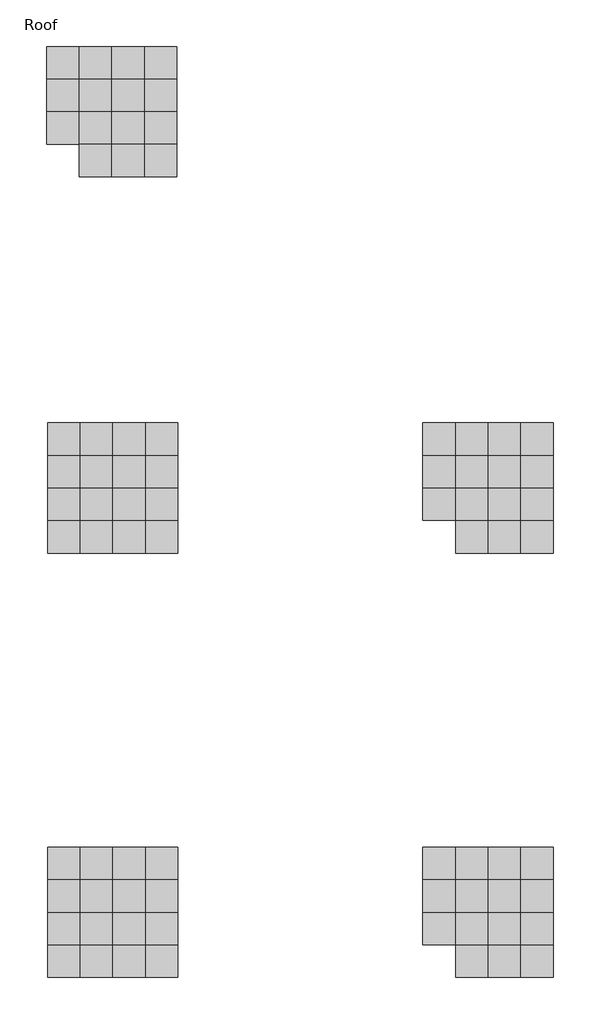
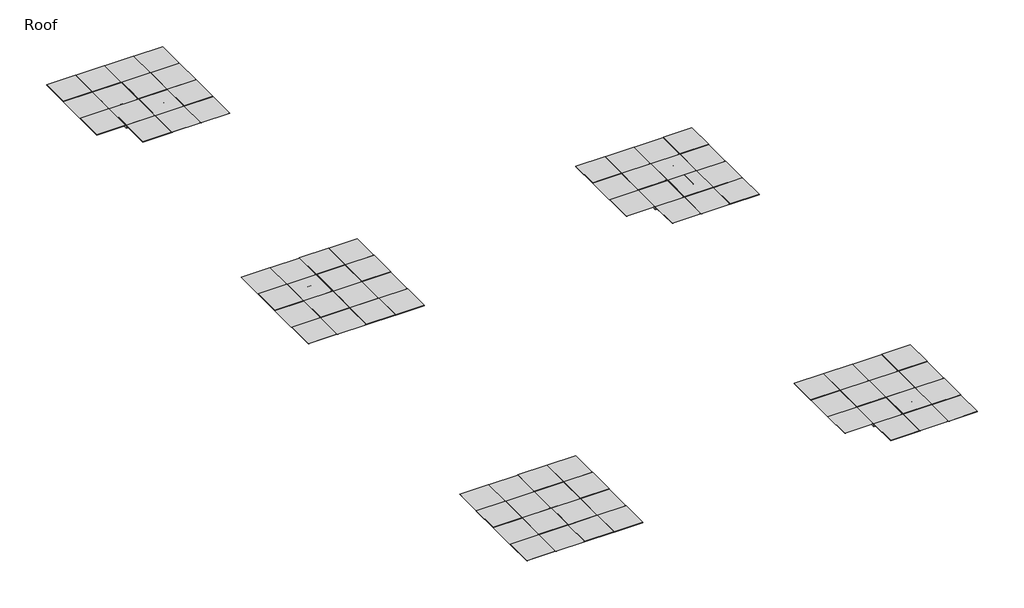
# One storey: 77 plates.
"""IFC4 building model written with IfcOpenShell, lengths in millimetres."""

from ifc_helpers import new_model, si_unit, origin, place, context, project, spatial, transform, mapped, element, save
from components import plate_104ba011, plate_ab7ddb5a, plate_bf94edcd, plate_3a2f0570, plate_562299b5

model = new_model("IFC4")

# Units and contexts
model_context = context("Model", 3, world=origin())
ifc_project = project(units=[si_unit("LENGTHUNIT", "METRE", prefix="MILLI")], contexts=[model_context])

# Site, building, storey
site = spatial("IfcSite", under=ifc_project)
building = spatial("IfcBuilding", under=site)
storey = spatial("IfcBuildingStorey", under=building, Name="Roof", Elevation=6096.0)

# Plates
placement = place(None, origin())
plate_shape = plate_104ba011(model_context)
element("IfcPlate", 1, ObjectType="Construction_Ceilings_Qwel-Tiles_Terra-Molded-Acoustic-Ceiling-Tiles : Terra (Light Grey Heather)", at=placement, inside=storey, context=model_context, shape_type="MappedRepresentation", body=[
    mapped(plate_shape, transform((-10036.4328018, 10145.5784964, 6096.0), x_axis=(1.0, 0.0, 0.0), y_axis=(0.0, 0.0, -1.0), z_axis=(0.0, 1.0, 0.0))),
])
plate_2_shape = plate_ab7ddb5a(model_context)
element("IfcPlate", 2, ObjectType="Construction_Ceilings_Qwel-Tiles_Terra-Molded-Acoustic-Ceiling-Tiles : Terra (Light Grey Heather)", at=placement, inside=storey, context=model_context, shape_type="MappedRepresentation", body=[
    mapped(plate_2_shape, transform((-9426.8328018, 10145.5784964, 6096.0), x_axis=(1.0, 0.0, 0.0), y_axis=(0.0, 0.0, -1.0), z_axis=(0.0, 1.0, 0.0))),
])
plate_3_shape = plate_bf94edcd(model_context)
element("IfcPlate", 3, ObjectType="Construction_Ceilings_Qwel-Tiles_Terra-Molded-Acoustic-Ceiling-Tiles : Terra (Light Grey Heather)", at=placement, inside=storey, context=model_context, shape_type="MappedRepresentation", body=[
    mapped(plate_3_shape, transform((-10036.4328018, 10755.1784964, 6096.0), x_axis=(1.0, 0.0, 0.0), y_axis=(0.0, 0.0, -1.0), z_axis=(0.0, 1.0, 0.0))),
])
plate_4_shape = plate_3a2f0570(model_context)
element("IfcPlate", 4, ObjectType="Construction_Ceilings_Qwel-Tiles_Terra-Molded-Acoustic-Ceiling-Tiles : Terra (Light Grey Heather)", at=placement, inside=storey, context=model_context, shape_type="MappedRepresentation", body=[
    mapped(plate_4_shape, transform((-9426.8328018, 10755.1784964, 6096.0), x_axis=(1.0, 0.0, 0.0), y_axis=(0.0, 0.0, -1.0), z_axis=(0.0, 1.0, 0.0))),
])
element("IfcPlate", 5, ObjectType="Construction_Ceilings_Qwel-Tiles_Terra-Molded-Acoustic-Ceiling-Tiles : Terra (Charcoal Heather)", at=placement, inside=storey, context=model_context, shape_type="MappedRepresentation", body=[
    mapped(plate_shape, transform((-3026.0328018, 10145.5784964, 6096.0), x_axis=(1.0, 0.0, 0.0), y_axis=(0.0, 0.0, -1.0), z_axis=(0.0, 1.0, 0.0))),
])
element("IfcPlate", 6, ObjectType="Construction_Ceilings_Qwel-Tiles_Terra-Molded-Acoustic-Ceiling-Tiles : Terra (Charcoal Heather)", at=placement, inside=storey, context=model_context, shape_type="MappedRepresentation", body=[
    mapped(plate_2_shape, transform((-2416.4328018, 10145.5784964, 6096.0), x_axis=(1.0, 0.0, 0.0), y_axis=(0.0, 0.0, -1.0), z_axis=(0.0, 1.0, 0.0))),
])
element("IfcPlate", 7, ObjectType="Construction_Ceilings_Qwel-Tiles_Terra-Molded-Acoustic-Ceiling-Tiles : Terra (Charcoal Heather)", at=placement, inside=storey, context=model_context, shape_type="MappedRepresentation", body=[
    mapped(plate_3_shape, transform((-3026.0328018, 10755.1784964, 6096.0), x_axis=(1.0, 0.0, 0.0), y_axis=(0.0, 0.0, -1.0), z_axis=(0.0, 1.0, 0.0))),
])
element("IfcPlate", 8, ObjectType="Construction_Ceilings_Qwel-Tiles_Terra-Molded-Acoustic-Ceiling-Tiles : Terra (Charcoal Heather)", at=placement, inside=storey, context=model_context, shape_type="MappedRepresentation", body=[
    mapped(plate_4_shape, transform((-2416.4328018, 10755.1784964, 6096.0), x_axis=(1.0, 0.0, 0.0), y_axis=(0.0, 0.0, -1.0), z_axis=(0.0, 1.0, 0.0))),
])
element("IfcPlate", 9, ObjectType="Construction_Ceilings_Qwel-Tiles_Terra-Molded-Acoustic-Ceiling-Tiles : Terra (Sandstone Heather)", at=placement, inside=storey, context=model_context, shape_type="MappedRepresentation", body=[
    mapped(plate_shape, transform((-3026.0328018, 2220.7784964, 6096.0), x_axis=(1.0, 0.0, 0.0), y_axis=(0.0, 0.0, -1.0), z_axis=(0.0, 1.0, 0.0))),
])
element("IfcPlate", 10, ObjectType="Construction_Ceilings_Qwel-Tiles_Terra-Molded-Acoustic-Ceiling-Tiles : Terra (Sandstone Heather)", at=placement, inside=storey, context=model_context, shape_type="MappedRepresentation", body=[
    mapped(plate_2_shape, transform((-2416.4328018, 2220.7784964, 6096.0), x_axis=(1.0, 0.0, 0.0), y_axis=(0.0, 0.0, -1.0), z_axis=(0.0, 1.0, 0.0))),
])
element("IfcPlate", 11, ObjectType="Construction_Ceilings_Qwel-Tiles_Terra-Molded-Acoustic-Ceiling-Tiles : Terra (Sandstone Heather)", at=placement, inside=storey, context=model_context, shape_type="MappedRepresentation", body=[
    mapped(plate_3_shape, transform((-3026.0328018, 2830.3784964, 6096.0), x_axis=(1.0, 0.0, 0.0), y_axis=(0.0, 0.0, -1.0), z_axis=(0.0, 1.0, 0.0))),
])
element("IfcPlate", 12, ObjectType="Construction_Ceilings_Qwel-Tiles_Terra-Molded-Acoustic-Ceiling-Tiles : Terra (Sandstone Heather)", at=placement, inside=storey, context=model_context, shape_type="MappedRepresentation", body=[
    mapped(plate_4_shape, transform((-2416.4328018, 2830.3784964, 6096.0), x_axis=(1.0, 0.0, 0.0), y_axis=(0.0, 0.0, -1.0), z_axis=(0.0, 1.0, 0.0))),
])
plate_5_shape = plate_562299b5(model_context)
element("IfcPlate", 13, ObjectType="Construction_Ceilings_Qwel-Tiles_Flat-Molded-Acoustic-Ceiling-Tiles : Flat Tile (Charcoal Heather)", at=placement, inside=storey, context=model_context, shape_type="MappedRepresentation", body=[
    mapped(plate_5_shape, transform((-3026.0328018, 9535.9784964, 6096.0), x_axis=(1.0, 0.0, 0.0), y_axis=(0.0, 0.0, -1.0), z_axis=(0.0, 1.0, 0.0))),
])
element("IfcPlate", 14, ObjectType="Construction_Ceilings_Qwel-Tiles_Flat-Molded-Acoustic-Ceiling-Tiles : Flat Tile (Charcoal Heather)", at=placement, inside=storey, context=model_context, shape_type="MappedRepresentation", body=[
    mapped(plate_5_shape, transform((-2416.4328018, 9535.9784964, 6096.0), x_axis=(1.0, 0.0, 0.0), y_axis=(0.0, 0.0, -1.0), z_axis=(0.0, 1.0, 0.0))),
])
element("IfcPlate", 15, ObjectType="Construction_Ceilings_Qwel-Tiles_Flat-Molded-Acoustic-Ceiling-Tiles : Flat Tile (Charcoal Heather)", at=placement, inside=storey, context=model_context, shape_type="MappedRepresentation", body=[
    mapped(plate_5_shape, transform((-1806.8328019, 9535.9784964, 6096.0), x_axis=(1.0, 0.0, 0.0), y_axis=(0.0, 0.0, -1.0), z_axis=(0.0, 1.0, 0.0))),
])
element("IfcPlate", 16, ObjectType="Construction_Ceilings_Qwel-Tiles_Flat-Molded-Acoustic-Ceiling-Tiles : Flat Tile (Charcoal Heather)", at=placement, inside=storey, context=model_context, shape_type="MappedRepresentation", body=[
    mapped(plate_5_shape, transform((-3635.6328019, 10145.5784964, 6096.0), x_axis=(1.0, 0.0, 0.0), y_axis=(0.0, 0.0, -1.0), z_axis=(0.0, 1.0, 0.0))),
])
element("IfcPlate", 17, ObjectType="Construction_Ceilings_Qwel-Tiles_Flat-Molded-Acoustic-Ceiling-Tiles : Flat Tile (Charcoal Heather)", at=placement, inside=storey, context=model_context, shape_type="MappedRepresentation", body=[
    mapped(plate_5_shape, transform((-1806.8328019, 10145.5784964, 6096.0), x_axis=(1.0, 0.0, 0.0), y_axis=(0.0, 0.0, -1.0), z_axis=(0.0, 1.0, 0.0))),
])
element("IfcPlate", 18, ObjectType="Construction_Ceilings_Qwel-Tiles_Flat-Molded-Acoustic-Ceiling-Tiles : Flat Tile (Charcoal Heather)", at=placement, inside=storey, context=model_context, shape_type="MappedRepresentation", body=[
    mapped(plate_5_shape, transform((-3635.6328019, 10755.1784964, 6096.0), x_axis=(1.0, 0.0, 0.0), y_axis=(0.0, 0.0, -1.0), z_axis=(0.0, 1.0, 0.0))),
])
element("IfcPlate", 19, ObjectType="Construction_Ceilings_Qwel-Tiles_Flat-Molded-Acoustic-Ceiling-Tiles : Flat Tile (Charcoal Heather)", at=placement, inside=storey, context=model_context, shape_type="MappedRepresentation", body=[
    mapped(plate_5_shape, transform((-1806.8328019, 10755.1784964, 6096.0), x_axis=(1.0, 0.0, 0.0), y_axis=(0.0, 0.0, -1.0), z_axis=(0.0, 1.0, 0.0))),
])
element("IfcPlate", 20, ObjectType="Construction_Ceilings_Qwel-Tiles_Flat-Molded-Acoustic-Ceiling-Tiles : Flat Tile (Charcoal Heather)", at=placement, inside=storey, context=model_context, shape_type="MappedRepresentation", body=[
    mapped(plate_5_shape, transform((-3635.6328019, 11364.7784964, 6096.0), x_axis=(1.0, 0.0, 0.0), y_axis=(0.0, 0.0, -1.0), z_axis=(0.0, 1.0, 0.0))),
])
element("IfcPlate", 21, ObjectType="Construction_Ceilings_Qwel-Tiles_Flat-Molded-Acoustic-Ceiling-Tiles : Flat Tile (Charcoal Heather)", at=placement, inside=storey, context=model_context, shape_type="MappedRepresentation", body=[
    mapped(plate_5_shape, transform((-3026.0328018, 11364.7784964, 6096.0), x_axis=(1.0, 0.0, 0.0), y_axis=(0.0, 0.0, -1.0), z_axis=(0.0, 1.0, 0.0))),
])
element("IfcPlate", 22, ObjectType="Construction_Ceilings_Qwel-Tiles_Flat-Molded-Acoustic-Ceiling-Tiles : Flat Tile (Charcoal Heather)", at=placement, inside=storey, context=model_context, shape_type="MappedRepresentation", body=[
    mapped(plate_5_shape, transform((-2416.4328018, 11364.7784964, 6096.0), x_axis=(1.0, 0.0, 0.0), y_axis=(0.0, 0.0, -1.0), z_axis=(0.0, 1.0, 0.0))),
])
element("IfcPlate", 23, ObjectType="Construction_Ceilings_Qwel-Tiles_Flat-Molded-Acoustic-Ceiling-Tiles : Flat Tile (Charcoal Heather)", at=placement, inside=storey, context=model_context, shape_type="MappedRepresentation", body=[
    mapped(plate_5_shape, transform((-1806.8328019, 11364.7784964, 6096.0), x_axis=(1.0, 0.0, 0.0), y_axis=(0.0, 0.0, -1.0), z_axis=(0.0, 1.0, 0.0))),
])
element("IfcPlate", 24, ObjectType="Construction_Ceilings_Qwel-Tiles_Flat-Molded-Acoustic-Ceiling-Tiles : Flat Tile (Light Grey Heather)", at=placement, inside=storey, context=model_context, shape_type="MappedRepresentation", body=[
    mapped(plate_5_shape, transform((-10646.0328019, 9535.9784964, 6096.0), x_axis=(1.0, 0.0, 0.0), y_axis=(0.0, 0.0, -1.0), z_axis=(0.0, 1.0, 0.0))),
])
element("IfcPlate", 25, ObjectType="Construction_Ceilings_Qwel-Tiles_Flat-Molded-Acoustic-Ceiling-Tiles : Flat Tile (Light Grey Heather)", at=placement, inside=storey, context=model_context, shape_type="MappedRepresentation", body=[
    mapped(plate_5_shape, transform((-10036.4328018, 9535.9784964, 6096.0), x_axis=(1.0, 0.0, 0.0), y_axis=(0.0, 0.0, -1.0), z_axis=(0.0, 1.0, 0.0))),
])
element("IfcPlate", 26, ObjectType="Construction_Ceilings_Qwel-Tiles_Flat-Molded-Acoustic-Ceiling-Tiles : Flat Tile (Light Grey Heather)", at=placement, inside=storey, context=model_context, shape_type="MappedRepresentation", body=[
    mapped(plate_5_shape, transform((-9426.8328018, 9535.9784964, 6096.0), x_axis=(1.0, 0.0, 0.0), y_axis=(0.0, 0.0, -1.0), z_axis=(0.0, 1.0, 0.0))),
])
element("IfcPlate", 27, ObjectType="Construction_Ceilings_Qwel-Tiles_Flat-Molded-Acoustic-Ceiling-Tiles : Flat Tile (Light Grey Heather)", at=placement, inside=storey, context=model_context, shape_type="MappedRepresentation", body=[
    mapped(plate_5_shape, transform((-8817.2328019, 9535.9784964, 6096.0), x_axis=(1.0, 0.0, 0.0), y_axis=(0.0, 0.0, -1.0), z_axis=(0.0, 1.0, 0.0))),
])
element("IfcPlate", 28, ObjectType="Construction_Ceilings_Qwel-Tiles_Flat-Molded-Acoustic-Ceiling-Tiles : Flat Tile (Light Grey Heather)", at=placement, inside=storey, context=model_context, shape_type="MappedRepresentation", body=[
    mapped(plate_5_shape, transform((-10646.0328019, 10145.5784964, 6096.0), x_axis=(1.0, 0.0, 0.0), y_axis=(0.0, 0.0, -1.0), z_axis=(0.0, 1.0, 0.0))),
])
element("IfcPlate", 29, ObjectType="Construction_Ceilings_Qwel-Tiles_Flat-Molded-Acoustic-Ceiling-Tiles : Flat Tile (Light Grey Heather)", at=placement, inside=storey, context=model_context, shape_type="MappedRepresentation", body=[
    mapped(plate_5_shape, transform((-8817.2328019, 10145.5784964, 6096.0), x_axis=(1.0, 0.0, 0.0), y_axis=(0.0, 0.0, -1.0), z_axis=(0.0, 1.0, 0.0))),
])
element("IfcPlate", 30, ObjectType="Construction_Ceilings_Qwel-Tiles_Flat-Molded-Acoustic-Ceiling-Tiles : Flat Tile (Light Grey Heather)", at=placement, inside=storey, context=model_context, shape_type="MappedRepresentation", body=[
    mapped(plate_5_shape, transform((-10646.0328019, 10755.1784964, 6096.0), x_axis=(1.0, 0.0, 0.0), y_axis=(0.0, 0.0, -1.0), z_axis=(0.0, 1.0, 0.0))),
])
element("IfcPlate", 31, ObjectType="Construction_Ceilings_Qwel-Tiles_Flat-Molded-Acoustic-Ceiling-Tiles : Flat Tile (Light Grey Heather)", at=placement, inside=storey, context=model_context, shape_type="MappedRepresentation", body=[
    mapped(plate_5_shape, transform((-8817.2328019, 10755.1784964, 6096.0), x_axis=(1.0, 0.0, 0.0), y_axis=(0.0, 0.0, -1.0), z_axis=(0.0, 1.0, 0.0))),
])
element("IfcPlate", 32, ObjectType="Construction_Ceilings_Qwel-Tiles_Flat-Molded-Acoustic-Ceiling-Tiles : Flat Tile (Light Grey Heather)", at=placement, inside=storey, context=model_context, shape_type="MappedRepresentation", body=[
    mapped(plate_5_shape, transform((-10646.0328019, 11364.7784964, 6096.0), x_axis=(1.0, 0.0, 0.0), y_axis=(0.0, 0.0, -1.0), z_axis=(0.0, 1.0, 0.0))),
])
element("IfcPlate", 33, ObjectType="Construction_Ceilings_Qwel-Tiles_Flat-Molded-Acoustic-Ceiling-Tiles : Flat Tile (Light Grey Heather)", at=placement, inside=storey, context=model_context, shape_type="MappedRepresentation", body=[
    mapped(plate_5_shape, transform((-10036.4328018, 11364.7784964, 6096.0), x_axis=(1.0, 0.0, 0.0), y_axis=(0.0, 0.0, -1.0), z_axis=(0.0, 1.0, 0.0))),
])
element("IfcPlate", 34, ObjectType="Construction_Ceilings_Qwel-Tiles_Flat-Molded-Acoustic-Ceiling-Tiles : Flat Tile (Light Grey Heather)", at=placement, inside=storey, context=model_context, shape_type="MappedRepresentation", body=[
    mapped(plate_5_shape, transform((-9426.8328018, 11364.7784964, 6096.0), x_axis=(1.0, 0.0, 0.0), y_axis=(0.0, 0.0, -1.0), z_axis=(0.0, 1.0, 0.0))),
])
element("IfcPlate", 35, ObjectType="Construction_Ceilings_Qwel-Tiles_Flat-Molded-Acoustic-Ceiling-Tiles : Flat Tile (Light Grey Heather)", at=placement, inside=storey, context=model_context, shape_type="MappedRepresentation", body=[
    mapped(plate_5_shape, transform((-8817.2328019, 11364.7784964, 6096.0), x_axis=(1.0, 0.0, 0.0), y_axis=(0.0, 0.0, -1.0), z_axis=(0.0, 1.0, 0.0))),
])
element("IfcPlate", 36, ObjectType="Construction_Ceilings_Qwel-Tiles_Flat-Molded-Acoustic-Ceiling-Tiles : Flat Tile (Sandstone Heather)", at=placement, inside=storey, context=model_context, shape_type="MappedRepresentation", body=[
    mapped(plate_5_shape, transform((-3026.0328018, 1611.1784964, 6096.0), x_axis=(1.0, 0.0, 0.0), y_axis=(0.0, 0.0, -1.0), z_axis=(0.0, 1.0, 0.0))),
])
element("IfcPlate", 37, ObjectType="Construction_Ceilings_Qwel-Tiles_Flat-Molded-Acoustic-Ceiling-Tiles : Flat Tile (Sandstone Heather)", at=placement, inside=storey, context=model_context, shape_type="MappedRepresentation", body=[
    mapped(plate_5_shape, transform((-2416.4328018, 1611.1784964, 6096.0), x_axis=(1.0, 0.0, 0.0), y_axis=(0.0, 0.0, -1.0), z_axis=(0.0, 1.0, 0.0))),
])
element("IfcPlate", 38, ObjectType="Construction_Ceilings_Qwel-Tiles_Flat-Molded-Acoustic-Ceiling-Tiles : Flat Tile (Sandstone Heather)", at=placement, inside=storey, context=model_context, shape_type="MappedRepresentation", body=[
    mapped(plate_5_shape, transform((-1806.8328019, 1611.1784964, 6096.0), x_axis=(1.0, 0.0, 0.0), y_axis=(0.0, 0.0, -1.0), z_axis=(0.0, 1.0, 0.0))),
])
element("IfcPlate", 39, ObjectType="Construction_Ceilings_Qwel-Tiles_Flat-Molded-Acoustic-Ceiling-Tiles : Flat Tile (Sandstone Heather)", at=placement, inside=storey, context=model_context, shape_type="MappedRepresentation", body=[
    mapped(plate_5_shape, transform((-3635.6328019, 2220.7784964, 6096.0), x_axis=(1.0, 0.0, 0.0), y_axis=(0.0, 0.0, -1.0), z_axis=(0.0, 1.0, 0.0))),
])
element("IfcPlate", 40, ObjectType="Construction_Ceilings_Qwel-Tiles_Flat-Molded-Acoustic-Ceiling-Tiles : Flat Tile (Sandstone Heather)", at=placement, inside=storey, context=model_context, shape_type="MappedRepresentation", body=[
    mapped(plate_5_shape, transform((-1806.8328019, 2220.7784964, 6096.0), x_axis=(1.0, 0.0, 0.0), y_axis=(0.0, 0.0, -1.0), z_axis=(0.0, 1.0, 0.0))),
])
element("IfcPlate", 41, ObjectType="Construction_Ceilings_Qwel-Tiles_Flat-Molded-Acoustic-Ceiling-Tiles : Flat Tile (Sandstone Heather)", at=placement, inside=storey, context=model_context, shape_type="MappedRepresentation", body=[
    mapped(plate_5_shape, transform((-3635.6328019, 2830.3784964, 6096.0), x_axis=(1.0, 0.0, 0.0), y_axis=(0.0, 0.0, -1.0), z_axis=(0.0, 1.0, 0.0))),
])
element("IfcPlate", 42, ObjectType="Construction_Ceilings_Qwel-Tiles_Flat-Molded-Acoustic-Ceiling-Tiles : Flat Tile (Sandstone Heather)", at=placement, inside=storey, context=model_context, shape_type="MappedRepresentation", body=[
    mapped(plate_5_shape, transform((-1806.8328019, 2830.3784964, 6096.0), x_axis=(1.0, 0.0, 0.0), y_axis=(0.0, 0.0, -1.0), z_axis=(0.0, 1.0, 0.0))),
])
element("IfcPlate", 43, ObjectType="Construction_Ceilings_Qwel-Tiles_Flat-Molded-Acoustic-Ceiling-Tiles : Flat Tile (Sandstone Heather)", at=placement, inside=storey, context=model_context, shape_type="MappedRepresentation", body=[
    mapped(plate_5_shape, transform((-3635.6328019, 3439.9784964, 6096.0), x_axis=(1.0, 0.0, 0.0), y_axis=(0.0, 0.0, -1.0), z_axis=(0.0, 1.0, 0.0))),
])
element("IfcPlate", 44, ObjectType="Construction_Ceilings_Qwel-Tiles_Flat-Molded-Acoustic-Ceiling-Tiles : Flat Tile (Sandstone Heather)", at=placement, inside=storey, context=model_context, shape_type="MappedRepresentation", body=[
    mapped(plate_5_shape, transform((-3026.0328018, 3439.9784964, 6096.0), x_axis=(1.0, 0.0, 0.0), y_axis=(0.0, 0.0, -1.0), z_axis=(0.0, 1.0, 0.0))),
])
element("IfcPlate", 45, ObjectType="Construction_Ceilings_Qwel-Tiles_Flat-Molded-Acoustic-Ceiling-Tiles : Flat Tile (Sandstone Heather)", at=placement, inside=storey, context=model_context, shape_type="MappedRepresentation", body=[
    mapped(plate_5_shape, transform((-2416.4328018, 3439.9784964, 6096.0), x_axis=(1.0, 0.0, 0.0), y_axis=(0.0, 0.0, -1.0), z_axis=(0.0, 1.0, 0.0))),
])
element("IfcPlate", 46, ObjectType="Construction_Ceilings_Qwel-Tiles_Flat-Molded-Acoustic-Ceiling-Tiles : Flat Tile (Sandstone Heather)", at=placement, inside=storey, context=model_context, shape_type="MappedRepresentation", body=[
    mapped(plate_5_shape, transform((-1806.8328019, 3439.9784964, 6096.0), x_axis=(1.0, 0.0, 0.0), y_axis=(0.0, 0.0, -1.0), z_axis=(0.0, 1.0, 0.0))),
])
element("IfcPlate", 47, ObjectType="Construction_Ceilings_Qwel-Tiles_Flat-Molded-Acoustic-Ceiling-Tiles : Flat Tile (Light Brown)", at=placement, inside=storey, context=model_context, shape_type="MappedRepresentation", body=[
    mapped(plate_5_shape, transform((-10646.0328019, 1611.1784964, 6096.0), x_axis=(1.0, 0.0, 0.0), y_axis=(0.0, 0.0, -1.0), z_axis=(0.0, 1.0, 0.0))),
])
element("IfcPlate", 48, ObjectType="Construction_Ceilings_Qwel-Tiles_Flat-Molded-Acoustic-Ceiling-Tiles : Flat Tile (Light Brown)", at=placement, inside=storey, context=model_context, shape_type="MappedRepresentation", body=[
    mapped(plate_5_shape, transform((-10036.4328018, 1611.1784964, 6096.0), x_axis=(1.0, 0.0, 0.0), y_axis=(0.0, 0.0, -1.0), z_axis=(0.0, 1.0, 0.0))),
])
element("IfcPlate", 49, ObjectType="Construction_Ceilings_Qwel-Tiles_Flat-Molded-Acoustic-Ceiling-Tiles : Flat Tile (Light Brown)", at=placement, inside=storey, context=model_context, shape_type="MappedRepresentation", body=[
    mapped(plate_5_shape, transform((-9426.8328018, 1611.1784964, 6096.0), x_axis=(1.0, 0.0, 0.0), y_axis=(0.0, 0.0, -1.0), z_axis=(0.0, 1.0, 0.0))),
])
element("IfcPlate", 50, ObjectType="Construction_Ceilings_Qwel-Tiles_Flat-Molded-Acoustic-Ceiling-Tiles : Flat Tile (Light Brown)", at=placement, inside=storey, context=model_context, shape_type="MappedRepresentation", body=[
    mapped(plate_5_shape, transform((-8817.2328019, 1611.1784964, 6096.0), x_axis=(1.0, 0.0, 0.0), y_axis=(0.0, 0.0, -1.0), z_axis=(0.0, 1.0, 0.0))),
])
element("IfcPlate", 51, ObjectType="Construction_Ceilings_Qwel-Tiles_Flat-Molded-Acoustic-Ceiling-Tiles : Flat Tile (Light Brown)", at=placement, inside=storey, context=model_context, shape_type="MappedRepresentation", body=[
    mapped(plate_5_shape, transform((-10646.0328019, 2220.7784964, 6096.0), x_axis=(1.0, 0.0, 0.0), y_axis=(0.0, 0.0, -1.0), z_axis=(0.0, 1.0, 0.0))),
])
element("IfcPlate", 52, ObjectType="Construction_Ceilings_Qwel-Tiles_Flat-Molded-Acoustic-Ceiling-Tiles : Flat Tile (Light Brown)", at=placement, inside=storey, context=model_context, shape_type="MappedRepresentation", body=[
    mapped(plate_5_shape, transform((-8817.2328019, 2220.7784964, 6096.0), x_axis=(1.0, 0.0, 0.0), y_axis=(0.0, 0.0, -1.0), z_axis=(0.0, 1.0, 0.0))),
])
element("IfcPlate", 53, ObjectType="Construction_Ceilings_Qwel-Tiles_Flat-Molded-Acoustic-Ceiling-Tiles : Flat Tile (Light Brown)", at=placement, inside=storey, context=model_context, shape_type="MappedRepresentation", body=[
    mapped(plate_5_shape, transform((-10646.0328019, 2830.3784964, 6096.0), x_axis=(1.0, 0.0, 0.0), y_axis=(0.0, 0.0, -1.0), z_axis=(0.0, 1.0, 0.0))),
])
element("IfcPlate", 54, ObjectType="Construction_Ceilings_Qwel-Tiles_Flat-Molded-Acoustic-Ceiling-Tiles : Flat Tile (Light Brown)", at=placement, inside=storey, context=model_context, shape_type="MappedRepresentation", body=[
    mapped(plate_5_shape, transform((-8817.2328019, 2830.3784964, 6096.0), x_axis=(1.0, 0.0, 0.0), y_axis=(0.0, 0.0, -1.0), z_axis=(0.0, 1.0, 0.0))),
])
element("IfcPlate", 55, ObjectType="Construction_Ceilings_Qwel-Tiles_Flat-Molded-Acoustic-Ceiling-Tiles : Flat Tile (Light Brown)", at=placement, inside=storey, context=model_context, shape_type="MappedRepresentation", body=[
    mapped(plate_5_shape, transform((-10646.0328019, 3439.9784964, 6096.0), x_axis=(1.0, 0.0, 0.0), y_axis=(0.0, 0.0, -1.0), z_axis=(0.0, 1.0, 0.0))),
])
element("IfcPlate", 56, ObjectType="Construction_Ceilings_Qwel-Tiles_Flat-Molded-Acoustic-Ceiling-Tiles : Flat Tile (Light Brown)", at=placement, inside=storey, context=model_context, shape_type="MappedRepresentation", body=[
    mapped(plate_5_shape, transform((-10036.4328018, 3439.9784964, 6096.0), x_axis=(1.0, 0.0, 0.0), y_axis=(0.0, 0.0, -1.0), z_axis=(0.0, 1.0, 0.0))),
])
element("IfcPlate", 57, ObjectType="Construction_Ceilings_Qwel-Tiles_Flat-Molded-Acoustic-Ceiling-Tiles : Flat Tile (Light Brown)", at=placement, inside=storey, context=model_context, shape_type="MappedRepresentation", body=[
    mapped(plate_5_shape, transform((-9426.8328018, 3439.9784964, 6096.0), x_axis=(1.0, 0.0, 0.0), y_axis=(0.0, 0.0, -1.0), z_axis=(0.0, 1.0, 0.0))),
])
element("IfcPlate", 58, ObjectType="Construction_Ceilings_Qwel-Tiles_Flat-Molded-Acoustic-Ceiling-Tiles : Flat Tile (Light Brown)", at=placement, inside=storey, context=model_context, shape_type="MappedRepresentation", body=[
    mapped(plate_5_shape, transform((-8817.2328019, 3439.9784964, 6096.0), x_axis=(1.0, 0.0, 0.0), y_axis=(0.0, 0.0, -1.0), z_axis=(0.0, 1.0, 0.0))),
])
element("IfcPlate", 59, ObjectType="Construction_Ceilings_Qwel-Tiles_Flat-Molded-Acoustic-Ceiling-Tiles : Flat Tile (Solid Black)", at=placement, inside=storey, context=model_context, shape_type="MappedRepresentation", body=[
    mapped(plate_5_shape, transform((-10055.4828018, 16565.4284964, 6096.0), x_axis=(1.0, 0.0, 0.0), y_axis=(0.0, 0.0, -1.0), z_axis=(0.0, 1.0, 0.0))),
])
element("IfcPlate", 60, ObjectType="Construction_Ceilings_Qwel-Tiles_Flat-Molded-Acoustic-Ceiling-Tiles : Flat Tile (Solid Black)", at=placement, inside=storey, context=model_context, shape_type="MappedRepresentation", body=[
    mapped(plate_5_shape, transform((-9445.8828018, 16565.4284964, 6096.0), x_axis=(1.0, 0.0, 0.0), y_axis=(0.0, 0.0, -1.0), z_axis=(0.0, 1.0, 0.0))),
])
element("IfcPlate", 61, ObjectType="Construction_Ceilings_Qwel-Tiles_Flat-Molded-Acoustic-Ceiling-Tiles : Flat Tile (Solid Black)", at=placement, inside=storey, context=model_context, shape_type="MappedRepresentation", body=[
    mapped(plate_5_shape, transform((-8836.2828019, 16565.4284964, 6096.0), x_axis=(1.0, 0.0, 0.0), y_axis=(0.0, 0.0, -1.0), z_axis=(0.0, 1.0, 0.0))),
])
element("IfcPlate", 62, ObjectType="Construction_Ceilings_Qwel-Tiles_Flat-Molded-Acoustic-Ceiling-Tiles : Flat Tile (Solid Black)", at=placement, inside=storey, context=model_context, shape_type="MappedRepresentation", body=[
    mapped(plate_5_shape, transform((-10665.0828019, 17175.0284964, 6096.0), x_axis=(1.0, 0.0, 0.0), y_axis=(0.0, 0.0, -1.0), z_axis=(0.0, 1.0, 0.0))),
])
element("IfcPlate", 63, ObjectType="Construction_Ceilings_Qwel-Tiles_Flat-Molded-Acoustic-Ceiling-Tiles : Flat Tile (Solid Black)", at=placement, inside=storey, context=model_context, shape_type="MappedRepresentation", body=[
    mapped(plate_5_shape, transform((-8836.2828019, 17175.0284964, 6096.0), x_axis=(1.0, 0.0, 0.0), y_axis=(0.0, 0.0, -1.0), z_axis=(0.0, 1.0, 0.0))),
])
element("IfcPlate", 64, ObjectType="Construction_Ceilings_Qwel-Tiles_Flat-Molded-Acoustic-Ceiling-Tiles : Flat Tile (Solid Black)", at=placement, inside=storey, context=model_context, shape_type="MappedRepresentation", body=[
    mapped(plate_5_shape, transform((-10665.0828019, 17784.6284964, 6096.0), x_axis=(1.0, 0.0, 0.0), y_axis=(0.0, 0.0, -1.0), z_axis=(0.0, 1.0, 0.0))),
])
element("IfcPlate", 65, ObjectType="Construction_Ceilings_Qwel-Tiles_Flat-Molded-Acoustic-Ceiling-Tiles : Flat Tile (Solid Black)", at=placement, inside=storey, context=model_context, shape_type="MappedRepresentation", body=[
    mapped(plate_5_shape, transform((-8836.2828019, 17784.6284964, 6096.0), x_axis=(1.0, 0.0, 0.0), y_axis=(0.0, 0.0, -1.0), z_axis=(0.0, 1.0, 0.0))),
])
element("IfcPlate", 66, ObjectType="Construction_Ceilings_Qwel-Tiles_Flat-Molded-Acoustic-Ceiling-Tiles : Flat Tile (Solid Black)", at=placement, inside=storey, context=model_context, shape_type="MappedRepresentation", body=[
    mapped(plate_5_shape, transform((-10665.0828019, 18394.2284964, 6096.0), x_axis=(1.0, 0.0, 0.0), y_axis=(0.0, 0.0, -1.0), z_axis=(0.0, 1.0, 0.0))),
])
element("IfcPlate", 67, ObjectType="Construction_Ceilings_Qwel-Tiles_Flat-Molded-Acoustic-Ceiling-Tiles : Flat Tile (Solid Black)", at=placement, inside=storey, context=model_context, shape_type="MappedRepresentation", body=[
    mapped(plate_5_shape, transform((-9445.8828018, 18394.2284964, 6096.0), x_axis=(1.0, 0.0, 0.0), y_axis=(0.0, 0.0, -1.0), z_axis=(0.0, 1.0, 0.0))),
])
element("IfcPlate", 68, ObjectType="Construction_Ceilings_Qwel-Tiles_Flat-Molded-Acoustic-Ceiling-Tiles : Flat Tile (Solid Black)", at=placement, inside=storey, context=model_context, shape_type="MappedRepresentation", body=[
    mapped(plate_5_shape, transform((-10055.4828018, 18394.2284964, 6096.0), x_axis=(1.0, 0.0, 0.0), y_axis=(0.0, 0.0, -1.0), z_axis=(0.0, 1.0, 0.0))),
])
element("IfcPlate", 69, ObjectType="Construction_Ceilings_Qwel-Tiles_Flat-Molded-Acoustic-Ceiling-Tiles : Flat Tile (Solid Black)", at=placement, inside=storey, context=model_context, shape_type="MappedRepresentation", body=[
    mapped(plate_5_shape, transform((-8836.2828019, 18394.2284964, 6096.0), x_axis=(1.0, 0.0, 0.0), y_axis=(0.0, 0.0, -1.0), z_axis=(0.0, 1.0, 0.0))),
])
element("IfcPlate", 70, ObjectType="Construction_Ceilings_Qwel-Tiles_Terra-Molded-Acoustic-Ceiling-Tiles : Terra (Light Brown)", at=placement, inside=storey, context=model_context, shape_type="MappedRepresentation", body=[
    mapped(plate_shape, transform((-10036.4328018, 2220.7784964, 6096.0), x_axis=(1.0, 0.0, 0.0), y_axis=(0.0, 0.0, -1.0), z_axis=(0.0, 1.0, 0.0))),
])
element("IfcPlate", 71, ObjectType="Construction_Ceilings_Qwel-Tiles_Terra-Molded-Acoustic-Ceiling-Tiles : Terra (Light Brown)", at=placement, inside=storey, context=model_context, shape_type="MappedRepresentation", body=[
    mapped(plate_2_shape, transform((-9426.8328018, 2220.7784964, 6096.0), x_axis=(1.0, 0.0, 0.0), y_axis=(0.0, 0.0, -1.0), z_axis=(0.0, 1.0, 0.0))),
])
element("IfcPlate", 72, ObjectType="Construction_Ceilings_Qwel-Tiles_Terra-Molded-Acoustic-Ceiling-Tiles : Terra (Light Brown)", at=placement, inside=storey, context=model_context, shape_type="MappedRepresentation", body=[
    mapped(plate_3_shape, transform((-10036.4328018, 2830.3784964, 6096.0), x_axis=(1.0, 0.0, 0.0), y_axis=(0.0, 0.0, -1.0), z_axis=(0.0, 1.0, 0.0))),
])
element("IfcPlate", 73, ObjectType="Construction_Ceilings_Qwel-Tiles_Terra-Molded-Acoustic-Ceiling-Tiles : Terra (Light Brown)", at=placement, inside=storey, context=model_context, shape_type="MappedRepresentation", body=[
    mapped(plate_4_shape, transform((-9426.8328018, 2830.3784964, 6096.0), x_axis=(1.0, 0.0, 0.0), y_axis=(0.0, 0.0, -1.0), z_axis=(0.0, 1.0, 0.0))),
])
element("IfcPlate", 74, ObjectType="Construction_Ceilings_Qwel-Tiles_Terra-Molded-Acoustic-Ceiling-Tiles : Terra (Solid Black)", at=placement, inside=storey, context=model_context, shape_type="MappedRepresentation", body=[
    mapped(plate_2_shape, transform((-9445.8828018, 17175.0284964, 6096.0), x_axis=(1.0, 0.0, 0.0), y_axis=(0.0, 0.0, -1.0), z_axis=(0.0, 1.0, 0.0))),
])
element("IfcPlate", 75, ObjectType="Construction_Ceilings_Qwel-Tiles_Terra-Molded-Acoustic-Ceiling-Tiles : Terra (Solid Black)", at=placement, inside=storey, context=model_context, shape_type="MappedRepresentation", body=[
    mapped(plate_shape, transform((-10055.4828018, 17175.0284964, 6096.0), x_axis=(1.0, 0.0, 0.0), y_axis=(0.0, 0.0, -1.0), z_axis=(0.0, 1.0, 0.0))),
])
element("IfcPlate", 76, ObjectType="Construction_Ceilings_Qwel-Tiles_Terra-Molded-Acoustic-Ceiling-Tiles : Terra (Solid Black)", at=placement, inside=storey, context=model_context, shape_type="MappedRepresentation", body=[
    mapped(plate_4_shape, transform((-9445.8828018, 17784.6284964, 6096.0), x_axis=(1.0, 0.0, 0.0), y_axis=(0.0, 0.0, -1.0), z_axis=(0.0, 1.0, 0.0))),
])
element("IfcPlate", 77, ObjectType="Construction_Ceilings_Qwel-Tiles_Terra-Molded-Acoustic-Ceiling-Tiles : Terra (Solid Black)", at=placement, inside=storey, context=model_context, shape_type="MappedRepresentation", body=[
    mapped(plate_3_shape, transform((-10055.4828018, 17784.6284964, 6096.0), x_axis=(1.0, 0.0, 0.0), y_axis=(0.0, 0.0, -1.0), z_axis=(0.0, 1.0, 0.0))),
])

save(model, "model.ifc")
